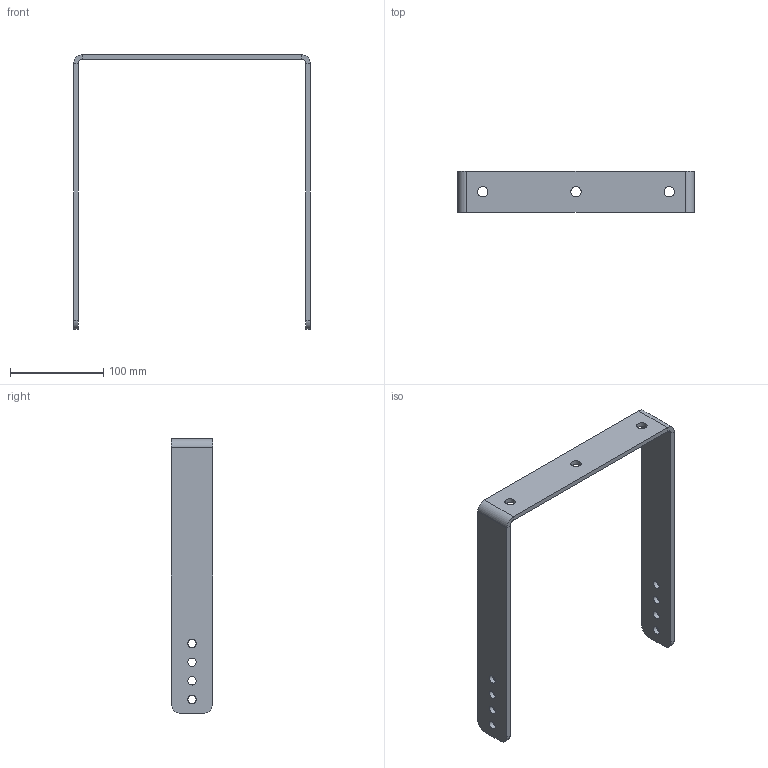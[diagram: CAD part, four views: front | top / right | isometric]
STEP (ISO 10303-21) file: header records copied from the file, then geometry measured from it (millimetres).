
FILE_DESCRIPTION(/* description */ (''),/* implementation_level */ '2;1');
FILE_NAME(/* name */ 'UB 8.stp',/* time_stamp */ '2024-09-25T12:29:12+02:00',/* author */ ('d.streicher'),/* organization */ (''),/* preprocessor_version */ 'ST-DEVELOPER v20',/* originating_system */ 'Autodesk Inventor 2025',/* authorisation */ '');
FILE_SCHEMA (('AUTOMOTIVE_DESIGN { 1 0 10303 214 3 1 1 }'));
Length unit declared in the file: millimetre
Products named in the file (1): UB 8
Bounding box: 254 x 44 x 295 mm (x, y, z)
Volume: 177664.2 mm3; surface area: 81344.8 mm2
Topology: 1 solids, 1 shells, 37 faces, 89 edges, 54 vertices
Faces by surface type: cylinder 19, plane 18
Full cylindrical faces by diameter (mm): 9 x8, 11 x3
Entity records: 1206 total; most frequent: DIRECTION 203, CARTESIAN_POINT 181, ORIENTED_EDGE 178, EDGE_CURVE 89, AXIS2_PLACEMENT_3D 76, EDGE_LOOP 59, VERTEX_POINT 54, LINE 51
